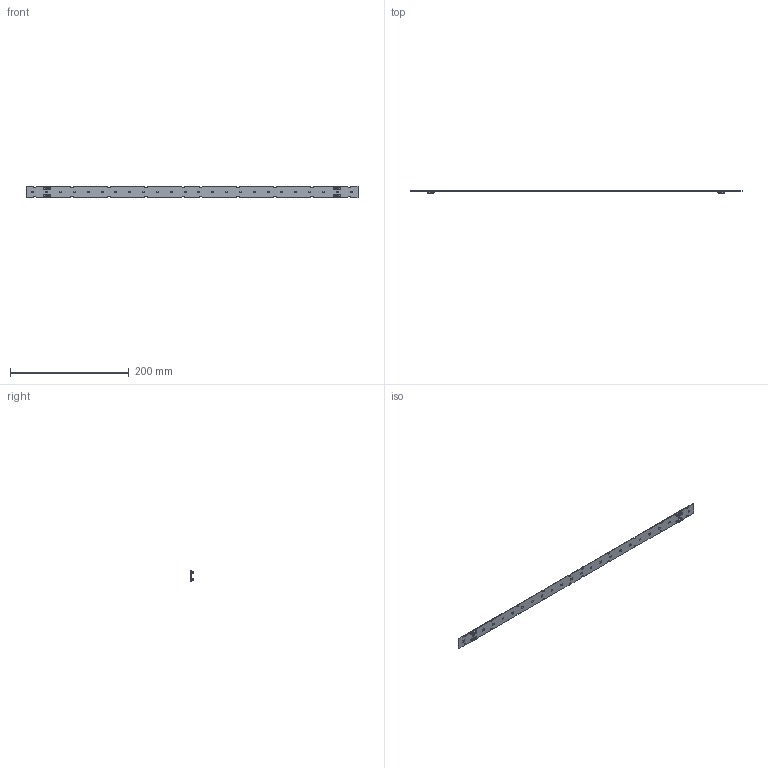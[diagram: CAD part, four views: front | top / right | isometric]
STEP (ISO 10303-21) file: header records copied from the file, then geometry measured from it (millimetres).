
FILE_DESCRIPTION(/* description */ ('Unknown'),/* implementation_level */ '2;1');
FILE_NAME(/* name */ 'LinLED 560x20mm 1100lm 4C 36V Opt G2 sh-215 2020-10-09',/* time_stamp */ '2020-10-09T11:10:18+02:00',/* author */ ('Unknown'),/* organization */ ('Unknown'),/* preprocessor_version */ 'ST-DEVELOPER v16.7',/* originating_system */ 'Solid Edge',/* authorisation */ 'Unknown');
FILE_SCHEMA (('AUTOMOTIVE_DESIGN { 1 0 10303 214 3 1 1 }','AUTOMOTIVE_DESIGN {1 0 10303 214 3 1 1}'));
Products named in the file (1): LinLED 560x20mm 1100lm 4C 36V Opt G2 sh-215 2020-10-09
Bounding box: 560 x 4.45 x 20 mm (x, y, z)
Volume: 11615.3 mm3; surface area: 24234 mm2
Topology: 1 solids, 1 shells, 1414 faces, 3680 edges, 2316 vertices
Faces by surface type: plane 822, cylinder 272, bspline 208, cone 60, sphere 32, torus 20
Entity records: 58240 total; most frequent: CARTESIAN_POINT 15919, ORIENTED_EDGE 7264, DIRECTION 5790, EDGE_CURVE 3632, LINE 2376, VECTOR 2376, VERTEX_POINT 2304, AXIS2_PLACEMENT_3D 1707
